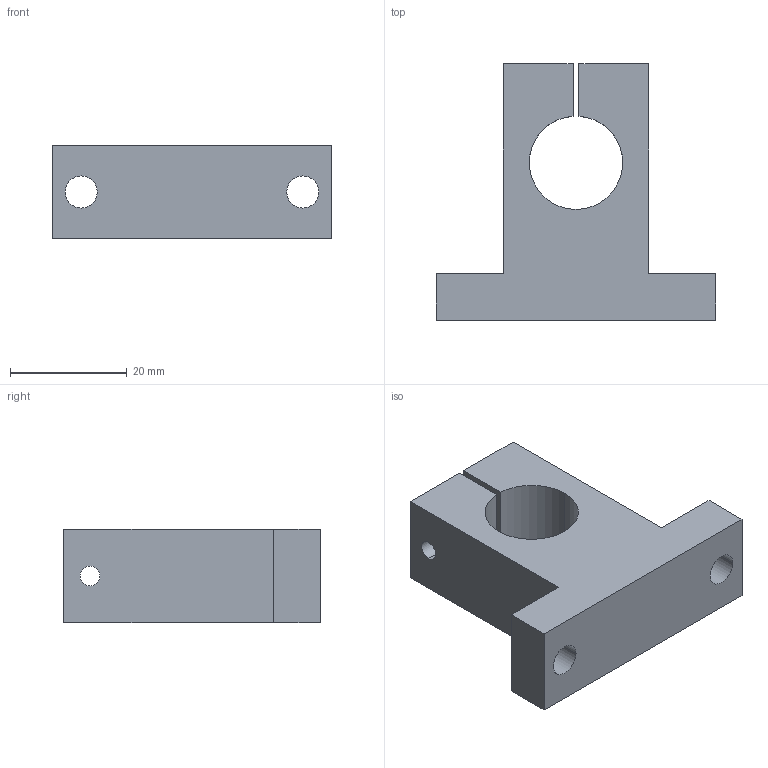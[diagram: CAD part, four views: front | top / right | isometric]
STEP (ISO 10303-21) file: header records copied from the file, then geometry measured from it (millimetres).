
FILE_DESCRIPTION((''),'2;1');
FILE_NAME('C:\Documents and Settings\ｿﾀﾀ蠑ｷ1\ｹﾙﾅﾁ ﾈｭｸ饅\ｺﾎﾇｰﾆﾄﾀﾏ\ﾁｦﾇｰ\SK\SK16.stp','2005-06-15T17:40:53',('ｿﾀﾀ蠑ｷ1'),(''),'Autodesk Inventor 9','Autodesk Inventor 9','');
FILE_SCHEMA(('AUTOMOTIVE_DESIGN { 1 0 10303 214 1 1 1 1 }'));
Length unit declared in the file: millimetre
Products named in the file (1): SK__
Bounding box: 48 x 44 x 16 mm (x, y, z)
Volume: 16348.4 mm3; surface area: 6631.3 mm2
Topology: 1 solids, 1 shells, 27 faces, 72 edges, 48 vertices
Faces by surface type: plane 13, bspline 11, cylinder 3
Entity records: 1021 total; most frequent: CARTESIAN_POINT 321, ORIENTED_EDGE 144, DIRECTION 132, EDGE_CURVE 72, VERTEX_POINT 48, VECTOR 46, LINE 46, AXIS2_PLACEMENT_3D 43
